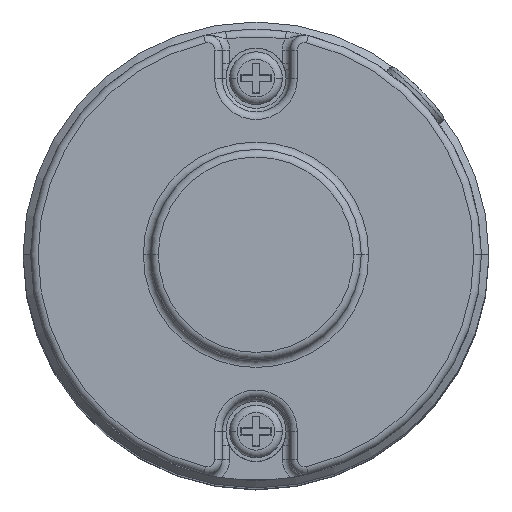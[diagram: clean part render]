
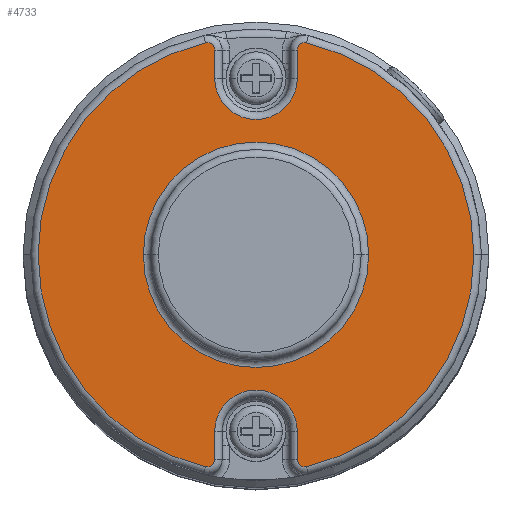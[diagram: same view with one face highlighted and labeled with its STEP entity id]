
A CAD part, top view. The second image highlights one B-rep face of the part: STEP entity #4733.
In plain terms, the highlighted planar face has unit normal (0, 0, 1).
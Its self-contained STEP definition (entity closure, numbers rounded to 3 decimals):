
#37 = LINE ( 'NONE', #4296, #4217 ) ;
#110 = CARTESIAN_POINT ( 'NONE',  ( -15., 0., 20.5 ) ) ;
#148 = AXIS2_PLACEMENT_3D ( 'NONE', #7697, #1280, #6327 ) ;
#197 = AXIS2_PLACEMENT_3D ( 'NONE', #8140, #2454, #5609 ) ;
#207 = VERTEX_POINT ( 'NONE', #903 ) ;
#317 = CARTESIAN_POINT ( 'NONE',  ( -6.732, -28.208, 20.5 ) ) ;
#356 = VERTEX_POINT ( 'NONE', #7475 ) ;
#433 = VERTEX_POINT ( 'NONE', #7137 ) ;
#574 = DIRECTION ( 'NONE',  ( 1., 0., 0. ) ) ;
#590 = EDGE_CURVE ( 'NONE', #3782, #2244, #4942, .T. ) ;
#716 = VERTEX_POINT ( 'NONE', #3296 ) ;
#734 = CIRCLE ( 'NONE', #1778, 1. ) ;
#770 = CARTESIAN_POINT ( 'NONE',  ( -5.5, 27.235, 20.5 ) ) ;
#773 = ORIENTED_EDGE ( 'NONE', *, *, #2682, .T. ) ;
#784 = CIRCLE ( 'NONE', #7797, 15. ) ;
#818 = AXIS2_PLACEMENT_3D ( 'NONE', #2509, #6200, #4323 ) ;
#903 = CARTESIAN_POINT ( 'NONE',  ( 6.732, -28.208, 20.5 ) ) ;
#973 = CARTESIAN_POINT ( 'NONE',  ( 0., 0., 20.5 ) ) ;
#981 = CARTESIAN_POINT ( 'NONE',  ( -5.5, -27.235, 20.5 ) ) ;
#992 = CIRCLE ( 'NONE', #197, 1. ) ;
#1018 = DIRECTION ( 'NONE',  ( 1., 0., 0. ) ) ;
#1280 = DIRECTION ( 'NONE',  ( 0., 0., 1. ) ) ;
#1468 = AXIS2_PLACEMENT_3D ( 'NONE', #3647, #5575, #2456 ) ;
#1485 = EDGE_CURVE ( 'NONE', #207, #5113, #7279, .T. ) ;
#1543 = EDGE_CURVE ( 'NONE', #6835, #6807, #7549, .T. ) ;
#1547 = CARTESIAN_POINT ( 'NONE',  ( 6.5, -27.235, 20.5 ) ) ;
#1550 = CARTESIAN_POINT ( 'NONE',  ( 0., -23.5, 20.5 ) ) ;
#1621 = ORIENTED_EDGE ( 'NONE', *, *, #1944, .T. ) ;
#1778 = AXIS2_PLACEMENT_3D ( 'NONE', #1547, #6122, #5369 ) ;
#1791 = CARTESIAN_POINT ( 'NONE',  ( 0., 23.5, 20.5 ) ) ;
#1845 = DIRECTION ( 'NONE',  ( 1., 0., 0. ) ) ;
#1856 = VERTEX_POINT ( 'NONE', #770 ) ;
#1889 = DIRECTION ( 'NONE',  ( 0., 0., -1. ) ) ;
#1944 = EDGE_CURVE ( 'NONE', #1856, #6300, #4687, .T. ) ;
#1957 = EDGE_CURVE ( 'NONE', #6300, #3774, #7403, .T. ) ;
#2158 = EDGE_CURVE ( 'NONE', #2393, #6835, #6480, .T. ) ;
#2212 = CARTESIAN_POINT ( 'NONE',  ( -6.732, 28.208, 20.5 ) ) ;
#2244 = VERTEX_POINT ( 'NONE', #3942 ) ;
#2246 = ORIENTED_EDGE ( 'NONE', *, *, #6058, .T. ) ;
#2323 = ORIENTED_EDGE ( 'NONE', *, *, #1485, .T. ) ;
#2384 = CIRCLE ( 'NONE', #5947, 15. ) ;
#2393 = VERTEX_POINT ( 'NONE', #981 ) ;
#2454 = DIRECTION ( 'NONE',  ( 0., 0., 1. ) ) ;
#2456 = DIRECTION ( 'NONE',  ( 1., 0., 0. ) ) ;
#2509 = CARTESIAN_POINT ( 'NONE',  ( -6.5, -27.235, 20.5 ) ) ;
#2526 = CARTESIAN_POINT ( 'NONE',  ( 6.732, 28.208, 20.5 ) ) ;
#2682 = EDGE_CURVE ( 'NONE', #6807, #716, #6010, .T. ) ;
#2683 = ORIENTED_EDGE ( 'NONE', *, *, #7832, .T. ) ;
#2749 = DIRECTION ( 'NONE',  ( 0., 1., 0. ) ) ;
#2802 = ORIENTED_EDGE ( 'NONE', *, *, #3611, .T. ) ;
#2937 = CIRCLE ( 'NONE', #5064, 29. ) ;
#3054 = AXIS2_PLACEMENT_3D ( 'NONE', #1791, #4274, #3726 ) ;
#3071 = CARTESIAN_POINT ( 'NONE',  ( 5.5, 23.5, 20.5 ) ) ;
#3078 = FACE_BOUND ( 'NONE', #5156, .T. ) ;
#3220 = DIRECTION ( 'NONE',  ( 0., 0., 1. ) ) ;
#3244 = ORIENTED_EDGE ( 'NONE', *, *, #1957, .T. ) ;
#3287 = CARTESIAN_POINT ( 'NONE',  ( 5.5, -23.5, 20.5 ) ) ;
#3296 = CARTESIAN_POINT ( 'NONE',  ( 5.5, -27.235, 20.5 ) ) ;
#3372 = DIRECTION ( 'NONE',  ( 0., 0., -1. ) ) ;
#3514 = CARTESIAN_POINT ( 'NONE',  ( 5.5, -27.235, 20.5 ) ) ;
#3601 = PLANE ( 'NONE',  #1468 ) ;
#3611 = EDGE_CURVE ( 'NONE', #5113, #8177, #2937, .T. ) ;
#3647 = CARTESIAN_POINT ( 'NONE',  ( 0., 0., 20.5 ) ) ;
#3726 = DIRECTION ( 'NONE',  ( 1., 0., 0. ) ) ;
#3774 = VERTEX_POINT ( 'NONE', #317 ) ;
#3782 = VERTEX_POINT ( 'NONE', #7905 ) ;
#3791 = CARTESIAN_POINT ( 'NONE',  ( 0., 0., 20.5 ) ) ;
#3811 = AXIS2_PLACEMENT_3D ( 'NONE', #973, #7297, #1018 ) ;
#3942 = CARTESIAN_POINT ( 'NONE',  ( 5.5, 23.5, 20.5 ) ) ;
#4008 = ORIENTED_EDGE ( 'NONE', *, *, #6664, .T. ) ;
#4038 = ORIENTED_EDGE ( 'NONE', *, *, #4328, .T. ) ;
#4088 = VECTOR ( 'NONE', #2749, 1000. ) ;
#4147 = DIRECTION ( 'NONE',  ( 0., -1., 0. ) ) ;
#4210 = VECTOR ( 'NONE', #4147, 1000. ) ;
#4217 = VECTOR ( 'NONE', #4964, 1000. ) ;
#4231 = DIRECTION ( 'NONE',  ( 1., 0., 0. ) ) ;
#4265 = CARTESIAN_POINT ( 'NONE',  ( 29., 0., 20.5 ) ) ;
#4274 = DIRECTION ( 'NONE',  ( 0., 0., -1. ) ) ;
#4296 = CARTESIAN_POINT ( 'NONE',  ( -5.5, 27.235, 20.5 ) ) ;
#4323 = DIRECTION ( 'NONE',  ( 1., 0., 0. ) ) ;
#4328 = EDGE_CURVE ( 'NONE', #3774, #2393, #5167, .T. ) ;
#4446 = VECTOR ( 'NONE', #5604, 1000. ) ;
#4450 = CARTESIAN_POINT ( 'NONE',  ( -5.5, -23.5, 20.5 ) ) ;
#4605 = ORIENTED_EDGE ( 'NONE', *, *, #6110, .T. ) ;
#4674 = ORIENTED_EDGE ( 'NONE', *, *, #2158, .T. ) ;
#4687 = CIRCLE ( 'NONE', #6017, 1. ) ;
#4691 = EDGE_CURVE ( 'NONE', #2244, #433, #7032, .T. ) ;
#4733 = ADVANCED_FACE ( 'NONE', ( #6153, #3078 ), #3601, .T. ) ;
#4942 = LINE ( 'NONE', #3071, #4446 ) ;
#4964 = DIRECTION ( 'NONE',  ( 0., 1., 0. ) ) ;
#5064 = AXIS2_PLACEMENT_3D ( 'NONE', #3791, #3220, #6334 ) ;
#5113 = VERTEX_POINT ( 'NONE', #4265 ) ;
#5156 = EDGE_LOOP ( 'NONE', ( #2246, #4008 ) ) ;
#5167 = CIRCLE ( 'NONE', #818, 1. ) ;
#5369 = DIRECTION ( 'NONE',  ( 1., 0., 0. ) ) ;
#5469 = EDGE_LOOP ( 'NONE', ( #773, #7188, #2323, #2802, #2683, #6474, #5842, #4605, #1621, #3244, #4038, #4674, #7556 ) ) ;
#5574 = AXIS2_PLACEMENT_3D ( 'NONE', #1550, #3372, #5915 ) ;
#5575 = DIRECTION ( 'NONE',  ( 0., 0., 1. ) ) ;
#5604 = DIRECTION ( 'NONE',  ( 0., -1., 0. ) ) ;
#5609 = DIRECTION ( 'NONE',  ( 1., 0., 0. ) ) ;
#5825 = CARTESIAN_POINT ( 'NONE',  ( -5.5, -23.5, 20.5 ) ) ;
#5842 = ORIENTED_EDGE ( 'NONE', *, *, #4691, .T. ) ;
#5915 = DIRECTION ( 'NONE',  ( 1., 0., 0. ) ) ;
#5947 = AXIS2_PLACEMENT_3D ( 'NONE', #6176, #1889, #574 ) ;
#6010 = LINE ( 'NONE', #3514, #4210 ) ;
#6014 = CARTESIAN_POINT ( 'NONE',  ( -6.5, 27.235, 20.5 ) ) ;
#6017 = AXIS2_PLACEMENT_3D ( 'NONE', #6014, #6146, #4231 ) ;
#6058 = EDGE_CURVE ( 'NONE', #356, #7373, #784, .T. ) ;
#6110 = EDGE_CURVE ( 'NONE', #433, #1856, #37, .T. ) ;
#6122 = DIRECTION ( 'NONE',  ( 0., 0., 1. ) ) ;
#6146 = DIRECTION ( 'NONE',  ( 0., 0., 1. ) ) ;
#6153 = FACE_OUTER_BOUND ( 'NONE', #5469, .T. ) ;
#6176 = CARTESIAN_POINT ( 'NONE',  ( 0., 0., 20.5 ) ) ;
#6200 = DIRECTION ( 'NONE',  ( 0., 0., 1. ) ) ;
#6300 = VERTEX_POINT ( 'NONE', #2212 ) ;
#6327 = DIRECTION ( 'NONE',  ( 1., 0., 0. ) ) ;
#6334 = DIRECTION ( 'NONE',  ( 1., 0., 0. ) ) ;
#6474 = ORIENTED_EDGE ( 'NONE', *, *, #590, .T. ) ;
#6480 = LINE ( 'NONE', #5825, #4088 ) ;
#6664 = EDGE_CURVE ( 'NONE', #7373, #356, #2384, .T. ) ;
#6807 = VERTEX_POINT ( 'NONE', #3287 ) ;
#6835 = VERTEX_POINT ( 'NONE', #4450 ) ;
#6924 = EDGE_CURVE ( 'NONE', #716, #207, #734, .T. ) ;
#7032 = CIRCLE ( 'NONE', #3054, 5.5 ) ;
#7137 = CARTESIAN_POINT ( 'NONE',  ( -5.5, 23.5, 20.5 ) ) ;
#7188 = ORIENTED_EDGE ( 'NONE', *, *, #6924, .T. ) ;
#7279 = CIRCLE ( 'NONE', #148, 29. ) ;
#7297 = DIRECTION ( 'NONE',  ( 0., 0., 1. ) ) ;
#7373 = VERTEX_POINT ( 'NONE', #110 ) ;
#7403 = CIRCLE ( 'NONE', #3811, 29. ) ;
#7475 = CARTESIAN_POINT ( 'NONE',  ( 15., 0., 20.5 ) ) ;
#7549 = CIRCLE ( 'NONE', #5574, 5.5 ) ;
#7556 = ORIENTED_EDGE ( 'NONE', *, *, #1543, .T. ) ;
#7569 = CARTESIAN_POINT ( 'NONE',  ( 0., 0., 20.5 ) ) ;
#7697 = CARTESIAN_POINT ( 'NONE',  ( 0., 0., 20.5 ) ) ;
#7797 = AXIS2_PLACEMENT_3D ( 'NONE', #7569, #8082, #1845 ) ;
#7832 = EDGE_CURVE ( 'NONE', #8177, #3782, #992, .T. ) ;
#7905 = CARTESIAN_POINT ( 'NONE',  ( 5.5, 27.235, 20.5 ) ) ;
#8082 = DIRECTION ( 'NONE',  ( 0., 0., -1. ) ) ;
#8140 = CARTESIAN_POINT ( 'NONE',  ( 6.5, 27.235, 20.5 ) ) ;
#8177 = VERTEX_POINT ( 'NONE', #2526 ) ;
